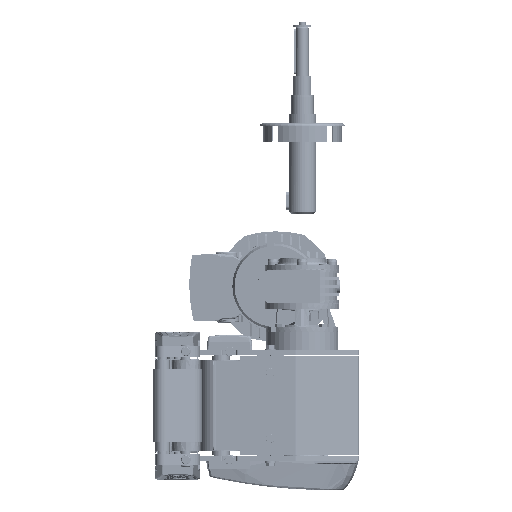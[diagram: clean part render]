
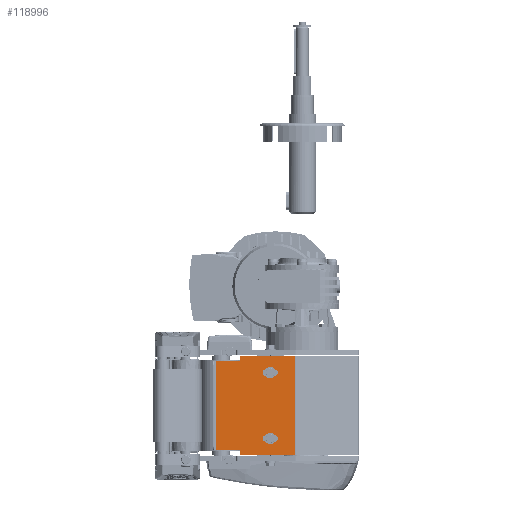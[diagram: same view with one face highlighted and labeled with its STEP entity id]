
A CAD part, left-side view. The second image highlights one B-rep face of the part: STEP entity #118996.
In plain terms, the highlighted planar face has unit normal (-1, 0, 0).
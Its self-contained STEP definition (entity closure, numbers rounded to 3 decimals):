
#855 = DIRECTION ( 'NONE',  ( 0., 0., -1. ) ) ;
#1634 = VERTEX_POINT ( 'NONE', #141308 ) ;
#2353 = LINE ( 'NONE', #141314, #101037 ) ;
#3697 = CARTESIAN_POINT ( 'NONE',  ( -90., 131.5, -6.5 ) ) ;
#5181 = ORIENTED_EDGE ( 'NONE', *, *, #144867, .T. ) ;
#7235 = CARTESIAN_POINT ( 'NONE',  ( -90., 103., -28. ) ) ;
#8074 = CARTESIAN_POINT ( 'NONE',  ( -90., 93., -97.5 ) ) ;
#10513 = CARTESIAN_POINT ( 'NONE',  ( -90., 160., -115.5 ) ) ;
#15907 = EDGE_CURVE ( 'NONE', #67599, #88432, #32217, .T. ) ;
#26759 = VERTEX_POINT ( 'NONE', #84169 ) ;
#29971 = EDGE_CURVE ( 'NONE', #75485, #1634, #160492, .T. ) ;
#30513 = ORIENTED_EDGE ( 'NONE', *, *, #29971, .T. ) ;
#30710 = ORIENTED_EDGE ( 'NONE', *, *, #83045, .T. ) ;
#30970 = EDGE_LOOP ( 'NONE', ( #150423, #159545, #108158, #113134, #5181, #86549, #127929, #189752 ) ) ;
#31837 = EDGE_CURVE ( 'NONE', #163694, #124198, #217904, .T. ) ;
#31842 = VECTOR ( 'NONE', #199868, 1000. ) ;
#32217 = LINE ( 'NONE', #100636, #154347 ) ;
#33597 = EDGE_CURVE ( 'NONE', #26759, #115517, #184930, .T. ) ;
#37790 = EDGE_LOOP ( 'NONE', ( #221151, #169566, #133127, #30710 ) ) ;
#39252 = VECTOR ( 'NONE', #168149, 1000. ) ;
#40551 = DIRECTION ( 'NONE',  ( 1., 0., 0. ) ) ;
#44433 = VERTEX_POINT ( 'NONE', #206358 ) ;
#45724 = DIRECTION ( 'NONE',  ( 0., 1., 0. ) ) ;
#46410 = VERTEX_POINT ( 'NONE', #147821 ) ;
#49503 = LINE ( 'NONE', #101139, #80356 ) ;
#57918 = DIRECTION ( 'NONE',  ( 0., -1., 0. ) ) ;
#61488 = CARTESIAN_POINT ( 'NONE',  ( -90., 160., -101. ) ) ;
#63755 = AXIS2_PLACEMENT_3D ( 'NONE', #127909, #201839, #855 ) ;
#63798 = CIRCLE ( 'NONE', #196397, 3.5 ) ;
#64160 = LINE ( 'NONE', #198780, #31842 ) ;
#64243 = DIRECTION ( 'NONE',  ( 0., -1., 0. ) ) ;
#66094 = CARTESIAN_POINT ( 'NONE',  ( -90., 93., -28. ) ) ;
#67599 = VERTEX_POINT ( 'NONE', #66094 ) ;
#71521 = AXIS2_PLACEMENT_3D ( 'NONE', #8074, #40551, #94398 ) ;
#75485 = VERTEX_POINT ( 'NONE', #158858 ) ;
#76159 = DIRECTION ( 'NONE',  ( 1., 0., 0. ) ) ;
#80356 = VECTOR ( 'NONE', #154923, 1000. ) ;
#80410 = FACE_OUTER_BOUND ( 'NONE', #30970, .T. ) ;
#82822 = CARTESIAN_POINT ( 'NONE',  ( -90., 70.086, -115.5 ) ) ;
#83045 = EDGE_CURVE ( 'NONE', #88432, #214982, #63798, .T. ) ;
#83274 = ORIENTED_EDGE ( 'NONE', *, *, #154365, .T. ) ;
#84169 = CARTESIAN_POINT ( 'NONE',  ( -90., 158.5, -110.5 ) ) ;
#84313 = DIRECTION ( 'NONE',  ( 0., -1., 0. ) ) ;
#84501 = CIRCLE ( 'NONE', #123917, 3.5 ) ;
#86184 = VERTEX_POINT ( 'NONE', #169796 ) ;
#86549 = ORIENTED_EDGE ( 'NONE', *, *, #31837, .T. ) ;
#87226 = LINE ( 'NONE', #123105, #161567 ) ;
#88432 = VERTEX_POINT ( 'NONE', #7235 ) ;
#90315 = VERTEX_POINT ( 'NONE', #199304 ) ;
#91464 = DIRECTION ( 'NONE',  ( 0., 0., -1. ) ) ;
#92215 = LINE ( 'NONE', #140481, #104425 ) ;
#92464 = VERTEX_POINT ( 'NONE', #192783 ) ;
#94398 = DIRECTION ( 'NONE',  ( 0., 0., -1. ) ) ;
#95177 = LINE ( 'NONE', #61488, #109246 ) ;
#95671 = CARTESIAN_POINT ( 'NONE',  ( -90., 131.5, -115.5 ) ) ;
#100636 = CARTESIAN_POINT ( 'NONE',  ( -90., 160., -28. ) ) ;
#101037 = VECTOR ( 'NONE', #207529, 1000. ) ;
#101139 = CARTESIAN_POINT ( 'NONE',  ( -90., 70.086, -6.5 ) ) ;
#104425 = VECTOR ( 'NONE', #142674, 1000. ) ;
#107206 = DIRECTION ( 'NONE',  ( 1., 0., 0. ) ) ;
#108158 = ORIENTED_EDGE ( 'NONE', *, *, #197715, .T. ) ;
#108861 = EDGE_CURVE ( 'NONE', #90315, #124198, #49503, .T. ) ;
#109246 = VECTOR ( 'NONE', #45724, 1000. ) ;
#110698 = EDGE_CURVE ( 'NONE', #44433, #67599, #84501, .T. ) ;
#111887 = DIRECTION ( 'NONE',  ( 1., 0., 0. ) ) ;
#113134 = ORIENTED_EDGE ( 'NONE', *, *, #33597, .T. ) ;
#113223 = CARTESIAN_POINT ( 'NONE',  ( -90., 160., -110.5 ) ) ;
#114831 = VERTEX_POINT ( 'NONE', #197624 ) ;
#115517 = VERTEX_POINT ( 'NONE', #218600 ) ;
#116294 = DIRECTION ( 'NONE',  ( 0., 0., -1. ) ) ;
#118996 = ADVANCED_FACE ( 'NONE', ( #163461, #199300, #80410 ), #147712, .F. ) ;
#120206 = LINE ( 'NONE', #171800, #141304 ) ;
#123105 = CARTESIAN_POINT ( 'NONE',  ( -90., 160., -11.5 ) ) ;
#123917 = AXIS2_PLACEMENT_3D ( 'NONE', #211483, #107206, #91464 ) ;
#124198 = VERTEX_POINT ( 'NONE', #82822 ) ;
#124732 = DIRECTION ( 'NONE',  ( 0., 0., -1. ) ) ;
#127909 = CARTESIAN_POINT ( 'NONE',  ( -90., 103., -97.5 ) ) ;
#127929 = ORIENTED_EDGE ( 'NONE', *, *, #108861, .F. ) ;
#128301 = VECTOR ( 'NONE', #57918, 1000. ) ;
#133047 = ORIENTED_EDGE ( 'NONE', *, *, #151605, .T. ) ;
#133127 = ORIENTED_EDGE ( 'NONE', *, *, #15907, .T. ) ;
#133619 = EDGE_CURVE ( 'NONE', #214982, #44433, #120206, .T. ) ;
#134214 = CARTESIAN_POINT ( 'NONE',  ( -90., 160., -6.5 ) ) ;
#138243 = LINE ( 'NONE', #3697, #203362 ) ;
#138496 = EDGE_CURVE ( 'NONE', #114831, #90315, #158892, .T. ) ;
#140481 = CARTESIAN_POINT ( 'NONE',  ( -90., 131.5, -6.5 ) ) ;
#141304 = VECTOR ( 'NONE', #84313, 1000. ) ;
#141308 = CARTESIAN_POINT ( 'NONE',  ( -90., 103., -94. ) ) ;
#141314 = CARTESIAN_POINT ( 'NONE',  ( -90., 158.5, -6.5 ) ) ;
#142674 = DIRECTION ( 'NONE',  ( 0., 0., -1. ) ) ;
#144867 = EDGE_CURVE ( 'NONE', #115517, #163694, #92215, .T. ) ;
#147712 = PLANE ( 'NONE',  #184554 ) ;
#147821 = CARTESIAN_POINT ( 'NONE',  ( -90., 93., -101. ) ) ;
#150423 = ORIENTED_EDGE ( 'NONE', *, *, #168686, .T. ) ;
#151605 = EDGE_CURVE ( 'NONE', #1634, #92464, #64160, .T. ) ;
#152029 = CARTESIAN_POINT ( 'NONE',  ( -90., 158.5, -11.5 ) ) ;
#153614 = EDGE_LOOP ( 'NONE', ( #133047, #83274, #203784, #30513 ) ) ;
#154347 = VECTOR ( 'NONE', #169052, 1000. ) ;
#154365 = EDGE_CURVE ( 'NONE', #92464, #46410, #185995, .T. ) ;
#154923 = DIRECTION ( 'NONE',  ( 0., 0., -1. ) ) ;
#158858 = CARTESIAN_POINT ( 'NONE',  ( -90., 103., -101. ) ) ;
#158892 = LINE ( 'NONE', #193668, #128301 ) ;
#159183 = DIRECTION ( 'NONE',  ( 0., 0., -1. ) ) ;
#159545 = ORIENTED_EDGE ( 'NONE', *, *, #196756, .T. ) ;
#160384 = VERTEX_POINT ( 'NONE', #152029 ) ;
#160492 = CIRCLE ( 'NONE', #63755, 3.5 ) ;
#161567 = VECTOR ( 'NONE', #174695, 1000. ) ;
#163461 = FACE_BOUND ( 'NONE', #153614, .T. ) ;
#163694 = VERTEX_POINT ( 'NONE', #95671 ) ;
#164617 = EDGE_CURVE ( 'NONE', #46410, #75485, #95177, .T. ) ;
#168149 = DIRECTION ( 'NONE',  ( 0., -1., 0. ) ) ;
#168686 = EDGE_CURVE ( 'NONE', #114831, #86184, #138243, .T. ) ;
#169052 = DIRECTION ( 'NONE',  ( 0., 1., 0. ) ) ;
#169566 = ORIENTED_EDGE ( 'NONE', *, *, #110698, .T. ) ;
#169796 = CARTESIAN_POINT ( 'NONE',  ( -90., 131.5, -11.5 ) ) ;
#171800 = CARTESIAN_POINT ( 'NONE',  ( -90., 160., -21. ) ) ;
#174695 = DIRECTION ( 'NONE',  ( 0., 1., 0. ) ) ;
#184554 = AXIS2_PLACEMENT_3D ( 'NONE', #134214, #111887, #116294 ) ;
#184930 = LINE ( 'NONE', #113223, #39252 ) ;
#185995 = CIRCLE ( 'NONE', #71521, 3.5 ) ;
#189752 = ORIENTED_EDGE ( 'NONE', *, *, #138496, .F. ) ;
#192783 = CARTESIAN_POINT ( 'NONE',  ( -90., 93., -94. ) ) ;
#193668 = CARTESIAN_POINT ( 'NONE',  ( -90., 160., -6.5 ) ) ;
#196397 = AXIS2_PLACEMENT_3D ( 'NONE', #197279, #76159, #159183 ) ;
#196756 = EDGE_CURVE ( 'NONE', #86184, #160384, #87226, .T. ) ;
#197279 = CARTESIAN_POINT ( 'NONE',  ( -90., 103., -24.5 ) ) ;
#197624 = CARTESIAN_POINT ( 'NONE',  ( -90., 131.5, -6.5 ) ) ;
#197715 = EDGE_CURVE ( 'NONE', #160384, #26759, #2353, .T. ) ;
#198780 = CARTESIAN_POINT ( 'NONE',  ( -90., 160., -94. ) ) ;
#199300 = FACE_BOUND ( 'NONE', #37790, .T. ) ;
#199304 = CARTESIAN_POINT ( 'NONE',  ( -90., 70.086, -6.5 ) ) ;
#199868 = DIRECTION ( 'NONE',  ( 0., -1., 0. ) ) ;
#201839 = DIRECTION ( 'NONE',  ( 1., 0., 0. ) ) ;
#202186 = CARTESIAN_POINT ( 'NONE',  ( -90., 103., -21. ) ) ;
#203362 = VECTOR ( 'NONE', #124732, 1000. ) ;
#203784 = ORIENTED_EDGE ( 'NONE', *, *, #164617, .T. ) ;
#206358 = CARTESIAN_POINT ( 'NONE',  ( -90., 93., -21. ) ) ;
#207529 = DIRECTION ( 'NONE',  ( 0., 0., -1. ) ) ;
#211483 = CARTESIAN_POINT ( 'NONE',  ( -90., 93., -24.5 ) ) ;
#214285 = VECTOR ( 'NONE', #64243, 1000. ) ;
#214982 = VERTEX_POINT ( 'NONE', #202186 ) ;
#217904 = LINE ( 'NONE', #10513, #214285 ) ;
#218600 = CARTESIAN_POINT ( 'NONE',  ( -90., 131.5, -110.5 ) ) ;
#221151 = ORIENTED_EDGE ( 'NONE', *, *, #133619, .T. ) ;
